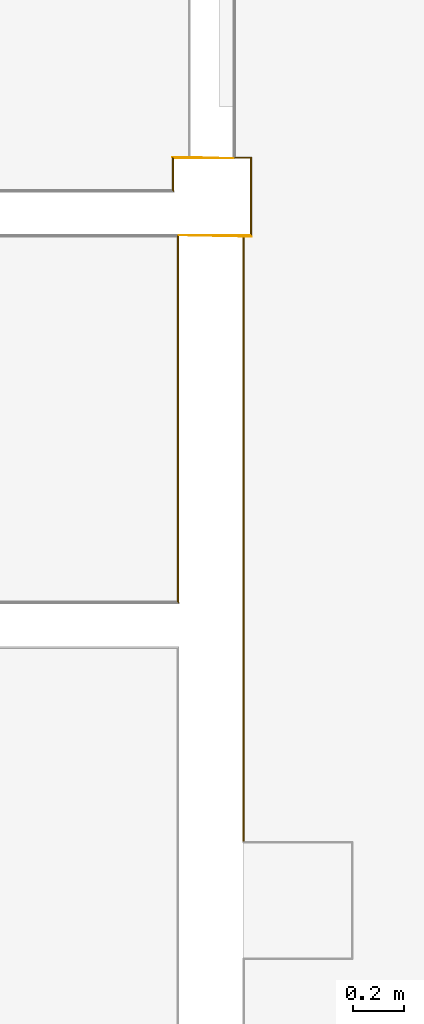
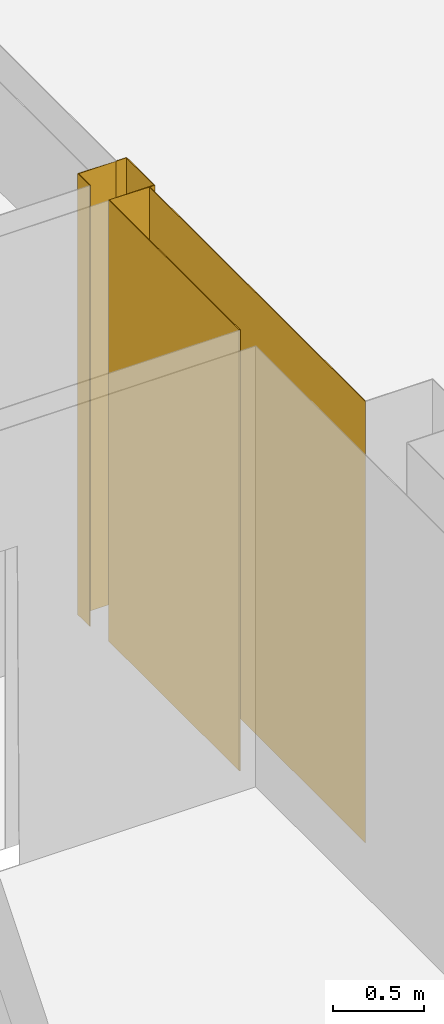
# One storey, part 21 of 33: 7 coverings.
"""IFC2X3 building model written with IfcOpenShell, lengths in millimetres."""

from ifc_helpers import new_model, entity, si_unit, converted_unit, derived_unit, money_unit, direction, frame, origin_with_axes, place, context, subcontext, project, spatial, polyline, outline, extrude, material, type_object, element, save


model = new_model("IFC2X3")

# Units and contexts
model_context = context("Model", 3, precision=0.01, world=origin_with_axes(), true_north=direction((0.0, 1.0)))
body_context = subcontext(model_context, "Body", "Model", "MODEL_VIEW")
ifc_project = project(units=[si_unit("LENGTHUNIT", "METRE", prefix="MILLI"), si_unit("AREAUNIT", "SQUARE_METRE"), si_unit("VOLUMEUNIT", "CUBIC_METRE"), converted_unit("PLANEANGLEUNIT", "DEGREE", entity("IfcPlaneAngleMeasure", 0.0174532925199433), si_unit("PLANEANGLEUNIT", "RADIAN"), dimensions=[0, 0, 0, 0, 0, 0, 0]), money_unit("EUR"), converted_unit("TIMEUNIT", "Year", entity("IfcTimeMeasure", 31556926.0), si_unit("TIMEUNIT", "SECOND"), dimensions=[0, 0, 1, 0, 0, 0, 0]), si_unit("MASSUNIT", "GRAM", prefix="KILO"), si_unit("THERMODYNAMICTEMPERATUREUNIT", "DEGREE_CELSIUS"), si_unit("LUMINOUSINTENSITYUNIT", "LUMEN"), si_unit("ENERGYUNIT", "JOULE", prefix="MEGA"), derived_unit("THERMALCONDUCTANCEUNIT", [(si_unit("POWERUNIT", "WATT"), 1), (si_unit("LENGTHUNIT", "METRE"), -1), (si_unit("THERMODYNAMICTEMPERATUREUNIT", "KELVIN"), -1)]), derived_unit("SPECIFICHEATCAPACITYUNIT", [(si_unit("ENERGYUNIT", "JOULE"), 1), (si_unit("MASSUNIT", "GRAM", prefix="KILO"), -1), (si_unit("THERMODYNAMICTEMPERATUREUNIT", "KELVIN"), -1)]), derived_unit("MASSDENSITYUNIT", [(si_unit("MASSUNIT", "GRAM", prefix="KILO"), 1), (si_unit("VOLUMEUNIT", "CUBIC_METRE"), -1)])], contexts=[model_context])

# Site, building, storey
site_placement = place(None, origin_with_axes())
site = spatial("IfcSite", under=ifc_project, at=site_placement, Name="Paldiski mnt 245/1, Tallinn, Harjumaa", CompositionType="COMPLEX")
building_placement = place(site_placement, origin_with_axes())
building = spatial("IfcBuilding", under=site, at=building_placement, Name="RKAS Hoone üldnimetus (kasutust iseloomustav) -> IFC Project Manager -> SOLIBRI", CompositionType="ELEMENT")
storey_placement = place(building_placement, origin_with_axes())
storey = spatial("IfcBuildingStorey", under=building, at=storey_placement, Name="Esimene korrus", CompositionType="ELEMENT", Elevation=0.0)

# Coverings
ifc_material_1 = material(Name="SA- Värv SM5(valge)")
covering_type_1 = type_object("IfcCoveringType", Name="SA- Värv SM5(valge) 5", PredefinedType="CLADDING")
covering_1_placement = place(storey_placement, frame((-23610.00000000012, -6309.999999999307, 0.0), z_axis=(0.0, 0.0, 1.0), x_axis=(0.0, 1.0, 0.0)))
element("IfcCovering", 1, at=covering_1_placement, inside=storey, type_object=covering_type_1, material=ifc_material_1, Name="SM5", PredefinedType="CLADDING", context=body_context, shape_type="SweptSolid", body=[
    extrude(outline(polyline([(0.0, 0.0), (129.9999999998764, 0.0), (134.9999999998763, 4.999999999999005), (4.999999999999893, 4.999999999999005), (0.0, 0.0)])), origin_with_axes(), (0.0, 0.0, 1.0), 2950.0),
])
covering_2_placement = place(storey_placement, frame((-23610.00000000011, -6179.999999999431, 0.0), z_axis=(0.0, 0.0, 1.0), x_axis=(1.0, 0.0, 0.0)))
element("IfcCovering", 2, at=covering_2_placement, inside=storey, type_object=covering_type_1, material=ifc_material_1, Name="SM5", PredefinedType="CLADDING", context=body_context, shape_type="SweptSolid", body=[
    extrude(outline(polyline([(0.0, 0.0), (235.0000000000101, 0.0), (65.00000000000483, 4.999999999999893), (-5.000000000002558, 4.999999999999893), (0.0, 0.0)])), origin_with_axes(), (0.0, 0.0, 1.0), 2950.0),
])
ifc_material_2 = material(Name="SA- Värv SM7(beez)")
covering_type_2 = type_object("IfcCoveringType", Name="SA- Värv SM7(beez) 5", PredefinedType="CLADDING")
covering_3_placement = place(storey_placement, frame((-23590.00000000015, -7914.999999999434, 0.0), z_axis=(0.0, 0.0, 1.0), x_axis=(4.200980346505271e-08, 0.9999999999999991, 0.0)))
element("IfcCovering", 3, at=covering_3_placement, inside=storey, type_object=covering_type_2, material=ifc_material_2, Name="SM7", PredefinedType="CLADDING", context=body_context, shape_type="SweptSolid", body=[
    extrude(outline(polyline([(0.0, 0.0), (1435.000031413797, 0.0), (1435.000031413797, 4.999999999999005), (4.999999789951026, 4.999999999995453), (0.0, 0.0)])), origin_with_axes(), (0.0, 0.0, 1.0), 2950.0),
])
ifc_material_3 = material(Name="SA- Värv SM12(tolmutõke)")
covering_type_3 = type_object("IfcCoveringType", Name="SA- Värv SM12(tolmutõke) 5", PredefinedType="CLADDING")
covering_4_placement = place(storey_placement, frame((-23310.00000000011, -6179.999999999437, 0.0), z_axis=(0.0, 0.0, 1.0), x_axis=(0.0, -1.0, 0.0)))
element("IfcCovering", 4, at=covering_4_placement, inside=storey, type_object=covering_type_3, material=ifc_material_3, Name="SM12", PredefinedType="CLADDING", context=body_context, shape_type="SweptSolid", body=[
    extrude(outline(polyline([(0.0, 0.0), (299.9999999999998, 0.0), (305.0000000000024, 4.999999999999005), (-5.00000000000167, 4.999999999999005), (0.0, 0.0)])), origin_with_axes(), (0.0, 0.0, 1.0), 2950.0),
])
covering_5_placement = place(storey_placement, frame((-23375.0000000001, -6179.999999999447, 0.0), z_axis=(0.0, 0.0, 1.0), x_axis=(1.0, 0.0, 0.0)))
element("IfcCovering", 5, at=covering_5_placement, inside=storey, type_object=covering_type_3, material=ifc_material_3, Name="SM12", PredefinedType="CLADDING", context=body_context, shape_type="SweptSolid", body=[
    extrude(outline(polyline([(0.0, 0.0), (64.99999999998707, 0.0), (69.99999999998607, 4.999999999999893), (4.999999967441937, 4.999999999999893), (0.0, 0.0)])), origin_with_axes(), (0.0, 0.0, 1.0), 2950.0),
])
covering_6_placement = place(storey_placement, frame((-23310.00000000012, -6479.999999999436, 0.0), z_axis=(0.0, 0.0, 1.0), x_axis=(-1.0, 0.0, 0.0)))
element("IfcCovering", 6, at=covering_6_placement, inside=storey, type_object=covering_type_3, material=ifc_material_3, Name="SM12", PredefinedType="CLADDING", context=body_context, shape_type="SweptSolid", body=[
    extrude(outline(polyline([(0.0, 0.0), (279.999999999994, 0.0), (29.99999999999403, 4.999999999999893), (-5.000000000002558, 5.000000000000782), (0.0, 0.0)])), origin_with_axes(), (0.0, 0.0, 1.0), 2950.0),
])
covering_7_placement = place(storey_placement, frame((-23340.00000000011, -6479.999999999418, 0.0), z_axis=(0.0, 0.0, 1.0), x_axis=(0.0, -1.0, 0.0)))
element("IfcCovering", 7, at=covering_7_placement, inside=storey, type_object=covering_type_3, material=ifc_material_3, Name="SM12", PredefinedType="CLADDING", context=body_context, shape_type="SweptSolid", body=[
    extrude(outline(polyline([(4.999999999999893, 0.0), (2370.084087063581, 0.0), (2365.084087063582, 4.999999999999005), (5.000000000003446, 4.999999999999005), (4.999999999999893, 0.0)])), origin_with_axes(), (0.0, 0.0, 1.0), 2950.0),
])

save(model, "model.ifc")
